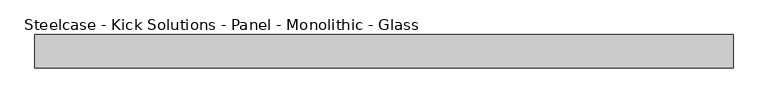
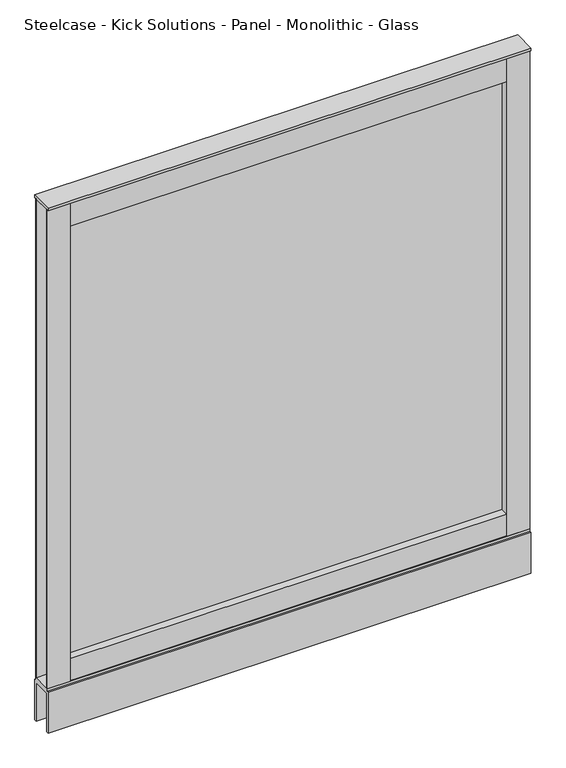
"""IFC4 building model written with IfcOpenShell, lengths in millimetres: furniture geometry, Steelcase - Kick Solutions - Panel - Monolithic - Glass : 48H x 42W."""

from ifc_helpers import new_model, si_unit, frame, origin, place, context, project, spatial, polyline, outline, extrude, source, transform, mapped, element, save


def steelcase_kick_solutions_panel_monolithic_glass_895aaadc(model_context):
    return source(origin(), model_context, "Body", "SweptSolid", [
        extrude(outline(polyline([(1016.0006661, -5.08), (1016.0006661, -45.7200015), (50.8006646, -45.7200015), (50.8006646, -5.08), (1016.0006661, -5.08)])), frame((0.0, 0.0, 101.7169049), z_axis=(0.0, 0.0, 1.0), x_axis=(1.0, 0.0, 0.0)), (0.0, 0.0, 1.0), 50.6830951),
        extrude(outline(polyline([(1016.0006661, -5.08), (1016.0006661, -45.7200015), (50.8006646, -45.7200015), (50.8006646, -5.08), (1016.0006661, -5.08)])), frame((0.0, 0.0, 1162.05), z_axis=(0.0, 0.0, 1.0), x_axis=(1.0, 0.0, 0.0)), (0.0, 0.0, 1.0), 57.15),
        extrude(outline(polyline([(50.8006646, -3.1743148), (50.8006646, -47.6243142), (0.0, -47.6243142), (0.0, -45.7200015), (47.7526646, -45.7200015), (47.7526646, -5.08), (0.0, -5.08), (0.0, -3.1743148), (50.8006646, -3.1743148)])), frame((0.0, 0.0, 101.7169049), z_axis=(0.0, 0.0, 1.0), x_axis=(1.0, 0.0, 0.0)), (0.0, 0.0, 1.0), 1117.4830951),
        extrude(outline(polyline([(1016.0006661, -3.1743148), (1066.8, -3.1743148), (1066.8, -5.08), (1019.0486661, -5.08), (1019.0486661, -45.7200015), (1066.8, -45.7200015), (1066.8, -47.6243142), (1016.0006661, -47.6243142), (1016.0006661, -3.1743148)])), frame((0.0, 0.0, 101.7169049), z_axis=(0.0, 0.0, 1.0), x_axis=(1.0, 0.0, 0.0)), (0.0, 0.0, 1.0), 1117.4830951),
        extrude(outline(polyline([(1016.0006661, -28.422537), (50.8006646, -28.422537), (50.8006646, -25.4), (1016.0006661, -25.4), (1016.0006661, -28.422537)])), frame((0.0, 0.0, 152.4), z_axis=(0.0, 0.0, 1.0), x_axis=(1.0, 0.0, 0.0)), (0.0, 0.0, 1.0), 1009.65),
        extrude(outline(polyline([(1066.8, 0.0), (1066.8, -50.8000015), (0.0, -50.8000015), (0.0, 0.0), (1066.8, 0.0)])), frame((0.0, 0.0, 1219.2), z_axis=(0.0, 0.0, 1.0), x_axis=(1.0, 0.0, 0.0)), (0.0, 0.0, 1.0), 6.35),
        extrude(outline(polyline([(0.0, 0.0), (-5.08, 0.0), (-5.08, 90.2869018), (-45.7200015, 90.2869018), (-45.7200015, 0.0), (-50.8000015, 0.0), (-50.8000015, 95.3669018), (-47.6243142, 95.3669018), (-47.6243142, 101.7169049), (-3.1743148, 101.7169049), (-3.1743148, 95.3669018), (0.0, 95.3669018), (0.0, 0.0)])), frame((0.0, 0.0, 0.0), z_axis=(1.0, 0.0, 0.0), x_axis=(0.0, 1.0, 0.0)), (0.0, 0.0, 1.0), 1066.8),
    ])


if __name__ == "__main__":
    model = new_model("IFC4")
    model_context = context("Model", 3, world=origin())
    ifc_project = project(units=[si_unit("LENGTHUNIT", "METRE", prefix="MILLI")], contexts=[model_context])
    site = spatial("IfcSite", under=ifc_project)
    building = spatial("IfcBuilding", under=site)
    placement = place(None, origin())
    steelcase_kick_solutions_panel_monolithic_glass_shape = steelcase_kick_solutions_panel_monolithic_glass_895aaadc(model_context)
    element("IfcFurniture", 1, ObjectType="Steelcase - Kick Solutions - Panel - Monolithic - Glass : 48H x 42W", at=placement, inside=building, context=model_context, shape_type="MappedRepresentation", body=[
        mapped(steelcase_kick_solutions_panel_monolithic_glass_shape, transform((0.0, 0.0, 0.0), x_axis=(1.0, 0.0, 0.0), y_axis=(0.0, 1.0, 0.0), z_axis=(0.0, 0.0, 1.0))),
    ])
    save(model, "model.ifc")
